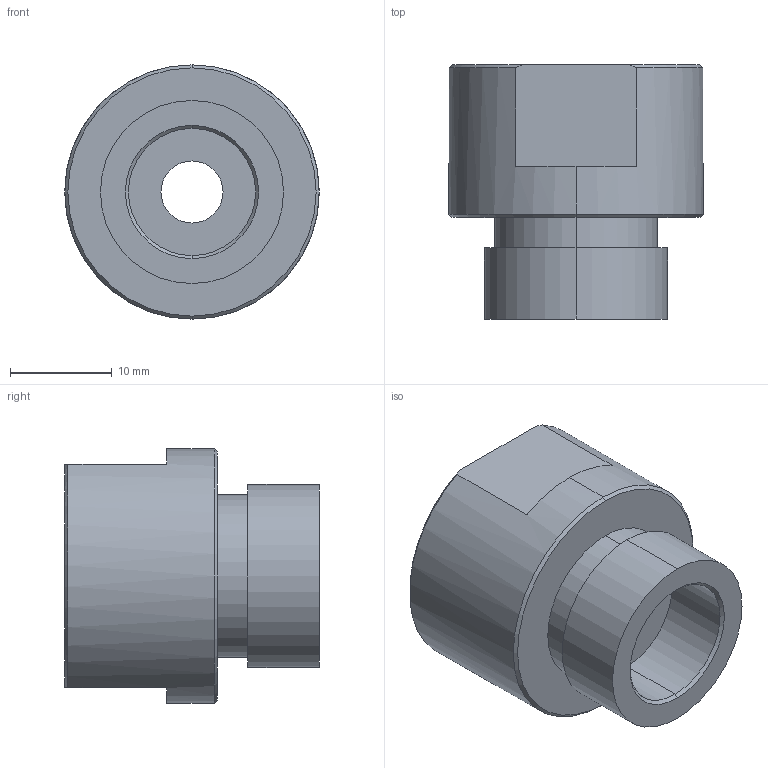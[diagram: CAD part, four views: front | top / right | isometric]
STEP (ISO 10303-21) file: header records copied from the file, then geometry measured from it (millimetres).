
FILE_DESCRIPTION (( 'STEP AP203' ), '1' );
FILE_NAME ('125MO-6.1.STEP', '2022-04-13T07:02:18', ( '' ), ( '' ), 'SwSTEP 2.0', 'SolidWorks 2015', '' );
FILE_SCHEMA (( 'CONFIG_CONTROL_DESIGN' ));
Length unit declared in the file: millimetre
Products named in the file (2): 125MO-6.1
Bounding box: 25 x 25 x 25 mm (x, y, z)
Volume: 8114.3 mm3; surface area: 3334.2 mm2
Topology: 1 solids, 1 shells, 25 faces, 56 edges, 36 vertices
Faces by surface type: cylinder 10, plane 9, cone 6
Entity records: 871 total; most frequent: DIRECTION 136, CARTESIAN_POINT 131, ORIENTED_EDGE 112, AXIS2_PLACEMENT_3D 57, EDGE_CURVE 56, VERTEX_POINT 36, EDGE_LOOP 30, CIRCLE 30
